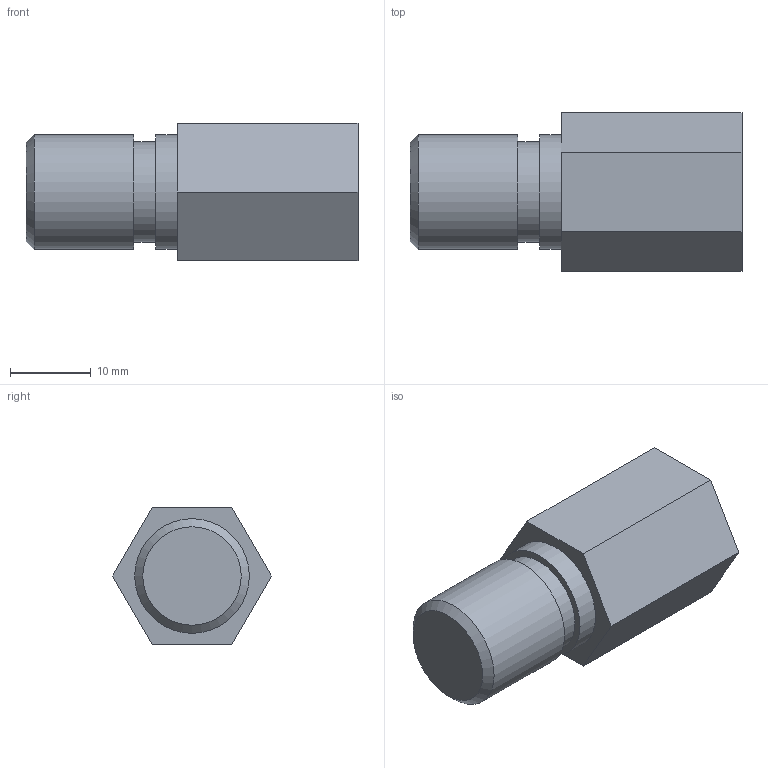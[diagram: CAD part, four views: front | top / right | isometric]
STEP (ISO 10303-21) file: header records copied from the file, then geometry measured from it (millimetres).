
FILE_DESCRIPTION((''),'2;1');
FILE_NAME('Z:\客先\あ行\アオイ\99_その他\3D_DATA\CPR_Series\6CPR-SPV-RC\STEP\203\CPR-SPV-RC1-4.ipt.stp','2008-07-02T09:53:43',(''),(''),'Autodesk Inventor 2009','Autodesk Inventor 2009','');
FILE_SCHEMA(('CONFIG_CONTROL_DESIGN'));
Length unit declared in the file: millimetre
Products named in the file (1): CPR-SPV-RC1-4
Bounding box: 41 x 19.63 x 17 mm (x, y, z)
Volume: 6651.2 mm3; surface area: 3194.2 mm2
Topology: 1 solids, 1 shells, 17 faces, 32 edges, 21 vertices
Faces by surface type: plane 12, cylinder 3, cone 2
Full cylindrical faces by diameter (mm): 12.4 x1, 14.15 x2
Entity records: 419 total; most frequent: DIRECTION 72, CARTESIAN_POINT 66, ORIENTED_EDGE 54, AXIS2_PLACEMENT_3D 27, EDGE_CURVE 27, EDGE_LOOP 26, VERTEX_POINT 21, VECTOR 18
